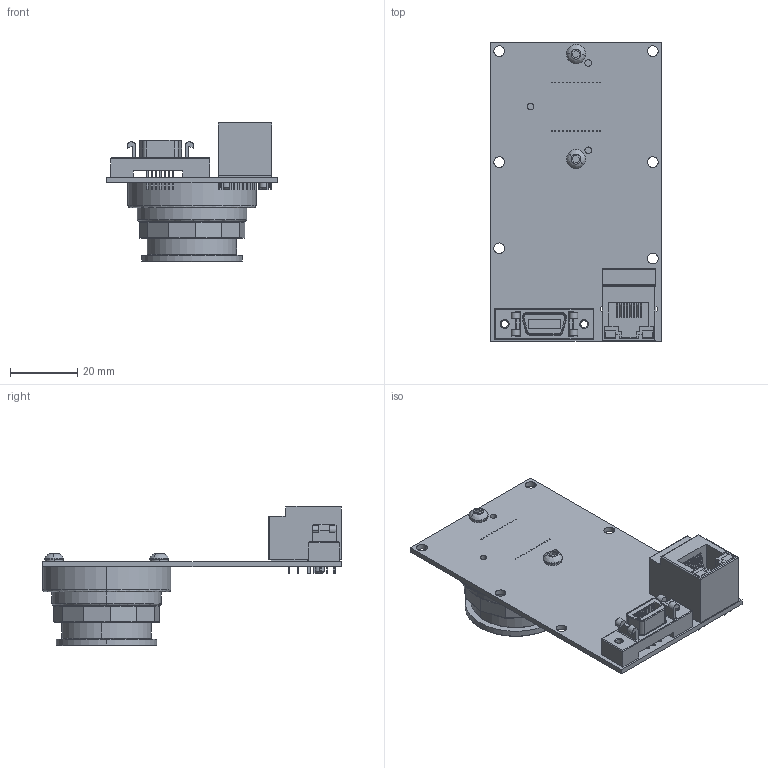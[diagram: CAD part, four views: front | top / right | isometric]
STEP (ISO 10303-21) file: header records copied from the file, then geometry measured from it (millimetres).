
FILE_DESCRIPTION (( 'STEP AP214' ), '1' );
FILE_NAME ('GB2450C-V.STEP', '2013-07-31T22:58:45', ( '' ), ( '' ), 'SwSTEP 2.0', 'SolidWorks 2013', '' );
FILE_SCHEMA (( 'AUTOMOTIVE_DESIGN' ));
Length unit declared in the file: millimetre
Products named in the file (19): 140008-washer spring lock #4; 140027-SCREW BUTTON M3x6 SS; 110031A-B EC-CCD LOCKING RING; 140004-LOW COST C-MOUNT CAP; GB2450C-V; 110078A-GB MOUNT; 220118-SONY ICX625AQA; 110094A-GB CCD GASKET; SONY ICX625 BODY; SONY ICX625 WINDOW; 110003AC-CV CMOUNT RING; 200086B-GB2450-LS-V; 200083B-GB2450-LS; 210046B-GB1380-650-LS; 260038-HALO HFJV1-E1G16-L12RL; 260040-3M 10214-6212PC; 100097A-IR FILTER ASSEMBLY 0.75 INCH; 110054AB-IR FILTER SUPPORT; 440002-IR CUT FILTER 22MM DIA
Assembly tree (20 placements, depth 4):
  GB2450C-V
    140004-LOW COST C-MOUNT CAP
    110031A-B EC-CCD LOCKING RING
    140027-SCREW BUTTON M3x6 SS  x2
    140008-washer spring lock #4  x2
    100097A-IR FILTER ASSEMBLY 0.75 INCH
      440002-IR CUT FILTER 22MM DIA
      110054AB-IR FILTER SUPPORT
    200086B-GB2450-LS-V
      260040-3M 10214-6212PC
      260038-HALO HFJV1-E1G16-L12RL
      200083B-GB2450-LS
        210046B-GB1380-650-LS
    110003AC-CV CMOUNT RING
    220118-SONY ICX625AQA
      SONY ICX625 WINDOW
      SONY ICX625 BODY
    110078A-GB MOUNT
    110094A-GB CCD GASKET
Bounding box: 50.8 x 88.9 x 41.59 mm (x, y, z)
Volume: 22293.3 mm3; surface area: 29953 mm2
Topology: 16 solids, 16 shells, 1317 faces, 3348 edges, 2109 vertices
Faces by surface type: plane 829, cylinder 268, cone 194, bspline 26
Entity records: 54682 total; most frequent: CARTESIAN_POINT 8067, ORIENTED_EDGE 6568, DIRECTION 6533, EDGE_CURVE 3284, LINE 2475, VECTOR 2475, VERTEX_POINT 2073, AXIS2_PLACEMENT_3D 2029
